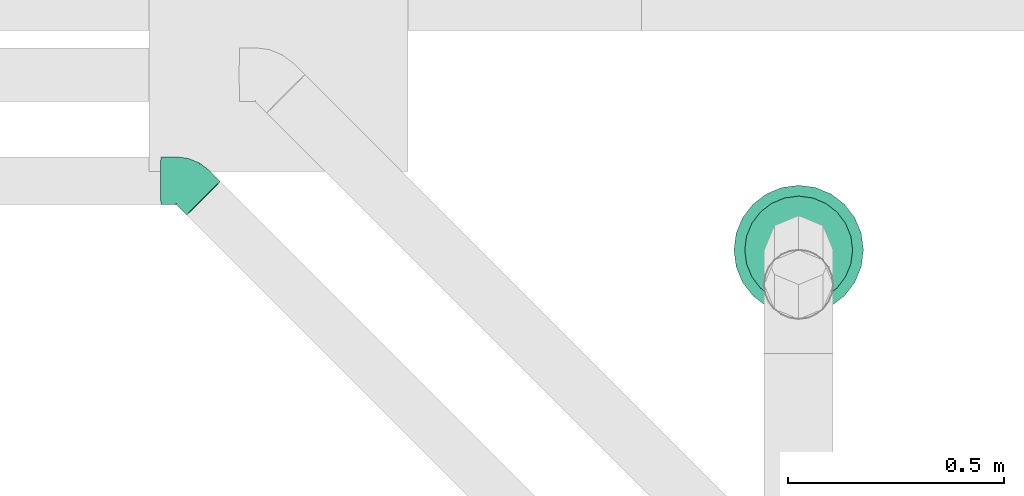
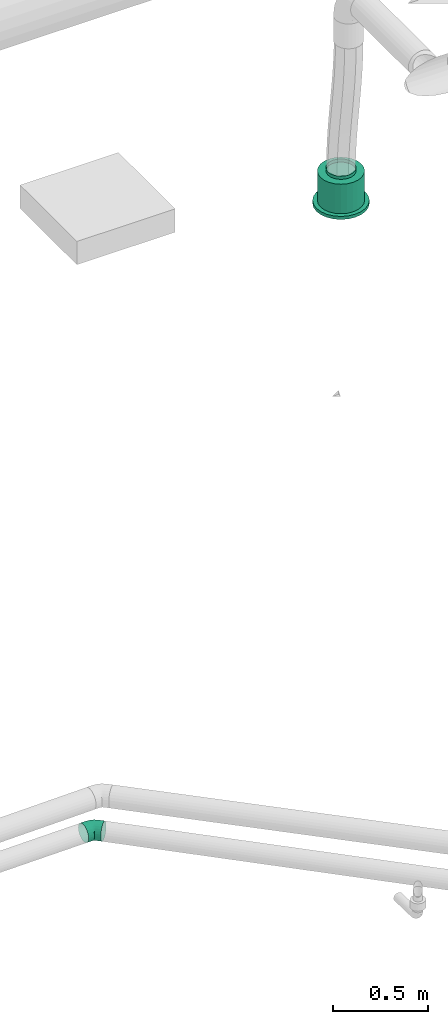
# One storey, part 171 of 374: 1 flow fitting, 1 flow terminal.
"""IFC2X3 building model written with IfcOpenShell, lengths in metres."""

import ifcopenshell
import ifcopenshell.guid

model = None  # the IFC model being written
_history = None  # IfcOwnerHistory: only IFC2X3 demands one
_inside = {}  # id of a spatial element -> (the spatial element, [elements in it])
_under = {}  # id of a project, library or spatial element -> (it, [spatial elements below it])
_declared = {}  # id of a project -> (the project, [libraries it declares])
_typed = {}  # id of a type object -> (the type object, [elements of that type])
_made_of = {}  # id of a material, layer set ... -> (it, [elements and type objects made of it])


def new_model(schema):
    """Start an empty IFC model of exactly this schema.

    Asked for "IFC4X3", IfcOpenShell would pick the latest addendum, in which some entities
    have other attributes; the version numbers below select the first issue.
    IFC2X3 requires an IfcOwnerHistory on every rooted entity: one is made here for all.
    """
    global model, _history
    if schema == "IFC4X3":
        model = ifcopenshell.file(schema_version=(4, 3, 0, 0))
    else:
        model = ifcopenshell.file(schema=schema)
    _inside.clear()
    _under.clear()
    _declared.clear()
    _typed.clear()
    _made_of.clear()
    _history = None
    if model.schema == "IFC2X3":
        org = make("IfcOrganization", Name="unknown")
        user = make(
            "IfcPersonAndOrganization",
            ThePerson=make("IfcPerson", FamilyName="unknown"),
            TheOrganization=org,
        )
        app = make(
            "IfcApplication",
            ApplicationDeveloper=org,
            Version="unknown",
            ApplicationFullName="unknown",
            ApplicationIdentifier="unknown",
        )
        _history = make(
            "IfcOwnerHistory",
            OwningUser=user,
            OwningApplication=app,
            ChangeAction="ADDED",
            CreationDate=0,
        )
    return model


def make(cls, **values):
    """One entity of the class cls with the attributes given. An attribute that is None is left unset."""
    return model.create_entity(
        cls, **{name: value for name, value in values.items() if value is not None}
    )


def rooted(cls, **values):
    """An entity with a GlobalId (a new one), such as an element, a storey or a relation."""
    return make(cls, GlobalId=ifcopenshell.guid.new(), OwnerHistory=_history, **values)


def si_unit(unit_type, name, prefix=None):
    """IfcSIUnit, for example si_unit("LENGTHUNIT", "METRE", prefix="MILLI")."""
    return make("IfcSIUnit", UnitType=unit_type, Prefix=prefix, Name=name)


def assignment(units):
    """IfcUnitAssignment: the units of a project."""
    return None if units is None else make("IfcUnitAssignment", Units=units)


def point(xyz):
    """IfcCartesianPoint."""
    return None if xyz is None else make("IfcCartesianPoint", Coordinates=xyz)


def direction(xyz):
    """IfcDirection."""
    return None if xyz is None else make("IfcDirection", DirectionRatios=xyz)


def frame(location, z_axis=None, x_axis=None):
    """IfcAxis2Placement3D, a coordinate frame: its origin and axes. An axis left out is left unset."""
    return make(
        "IfcAxis2Placement3D",
        Location=point(location),
        Axis=direction(z_axis),
        RefDirection=direction(x_axis),
    )


def origin():
    """The frame at (0, 0, 0) with its axes left unset."""
    return frame((0.0, 0.0, 0.0))


def place(relative_to, where):
    """IfcLocalPlacement: puts the frame where relative to a parent placement (None: the world)."""
    return make(
        "IfcLocalPlacement", PlacementRelTo=relative_to, RelativePlacement=where
    )


def context(
    kind, dimensions, precision=None, world=None, true_north=None, identifier=None
):
    """IfcGeometricRepresentationContext, for example the 3D "Model" context."""
    return make(
        "IfcGeometricRepresentationContext",
        ContextIdentifier=identifier,
        ContextType=kind,
        CoordinateSpaceDimension=dimensions,
        Precision=precision,
        WorldCoordinateSystem=world,
        TrueNorth=true_north,
    )


def subcontext(parent, identifier, kind, view, scale=None):
    """IfcGeometricRepresentationSubContext, for example "Body" below "Model"."""
    return make(
        "IfcGeometricRepresentationSubContext",
        ContextIdentifier=identifier,
        ContextType=kind,
        ParentContext=parent,
        TargetScale=scale,
        TargetView=view,
    )


def project(units=None, contexts=None):
    """IfcProject with its units and contexts."""
    return rooted(
        "IfcProject",
        Name="project",
        RepresentationContexts=contexts,
        UnitsInContext=assignment(units),
    )


def spatial(cls, under=None, at=None, **own):
    """A site, building, storey or space (cls), placed at a placement, below another one or the project."""
    s = rooted(cls, ObjectPlacement=at, **own)
    if under is not None:
        _under.setdefault(under.id(), (under, []))[1].append(s)
    return s


def faces_of(points, faces, orient=None, outer=None):
    """IfcFace entities. A face is a list of loops; a loop is a list of indices into points, from 0.

    orient and outer hold one flag for each loop. By default every Orientation is true, the
    first loop of a face is its IfcFaceOuterBound and the others are IfcFaceBound.
    """
    made = []
    for i, loops in enumerate(faces):
        bounds = []
        for j, loop in enumerate(loops):
            is_outer = j == 0 if outer is None else outer[i][j]
            bounds.append(
                make(
                    "IfcFaceOuterBound" if is_outer else "IfcFaceBound",
                    Bound=make("IfcPolyLoop", Polygon=[points[k] for k in loop]),
                    Orientation=True if orient is None else orient[i][j],
                )
            )
        made.append(make("IfcFace", Bounds=bounds))
    return made


def open_shell(faces, orient=None, outer=None):
    """The faces of one IfcOpenShell. surface_model builds it on its shared points."""
    return ("IfcOpenShell", faces, orient, outer)


def surface_model(cls, points, shells):
    """IfcFaceBasedSurfaceModel or IfcShellBasedSurfaceModel (cls): surfaces that need not close."""
    shared = [point(p) for p in points]
    made = [make(c, CfsFaces=faces_of(shared, fs, o, b)) for c, fs, o, b in shells]
    if cls == "IfcFaceBasedSurfaceModel":
        return make(cls, FbsmFaces=made)
    return make(cls, SbsmBoundary=made)


def shape(context_of_items, identifier, shape_type, items):
    """IfcShapeRepresentation: the items that make up one representation, for example the "Body"."""
    return make(
        "IfcShapeRepresentation",
        ContextOfItems=context_of_items,
        RepresentationIdentifier=identifier,
        RepresentationType=shape_type,
        Items=items,
    )


def source(mapping_origin, context_of_items, identifier, shape_type, items):
    """IfcRepresentationMap: a shape defined once, which mapped items show again and again."""
    return make(
        "IfcRepresentationMap",
        MappingOrigin=mapping_origin,
        MappedRepresentation=shape(context_of_items, identifier, shape_type, items),
    )


def transform(
    local_origin,
    x_axis=None,
    y_axis=None,
    z_axis=None,
    scale=None,
    scale2=None,
    scale3=None,
    uniform=True,
):
    """IfcCartesianTransformationOperator3D, or its non-uniform kind. x_axis, y_axis, z_axis: its Axis1, 2, 3."""
    if uniform:
        return make(
            "IfcCartesianTransformationOperator3D",
            Axis1=direction(x_axis),
            Axis2=direction(y_axis),
            LocalOrigin=point(local_origin),
            Scale=scale,
            Axis3=direction(z_axis),
        )
    return make(
        "IfcCartesianTransformationOperator3DnonUniform",
        Axis1=direction(x_axis),
        Axis2=direction(y_axis),
        LocalOrigin=point(local_origin),
        Scale=scale,
        Axis3=direction(z_axis),
        Scale2=scale2,
        Scale3=scale3,
    )


def mapped(mapping_source, mapping_target):
    """IfcMappedItem: shows the shape of a source again, moved by a transform."""
    return make(
        "IfcMappedItem", MappingSource=mapping_source, MappingTarget=mapping_target
    )


def made_of(thing, what):
    """Note that an element or type object is made of a material, layer set ...; save() writes the relation."""
    if what is not None:
        _made_of.setdefault(what.id(), (what, []))[1].append(thing)
    return thing


def element(
    cls,
    number,
    at=None,
    inside=None,
    cuts=None,
    type_object=None,
    material=None,
    context=None,
    identifier="Body",
    shape_type=None,
    held_by="IfcProductDefinitionShape",
    body=None,
    shapes=None,
    **own,
):
    """One element of the class cls, such as IfcWall. Its Tag is "e" and its number.

    at: its placement. inside: the storey or other place that contains it. cuts: it is an
    opening in that element (IfcRelVoidsElement). A single representation is given by context,
    identifier, shape_type and body (its items); several are given by shapes. held_by: the class
    of the entity that holds the representations. save() writes the other relations.
    """
    e = rooted(cls, Tag="e%d" % number, ObjectPlacement=at, **own)
    if body is not None:
        shapes = [shape(context, identifier, shape_type, body)]
    if shapes is not None:
        e.Representation = make(held_by, Representations=shapes)
    if inside is not None:
        _inside.setdefault(inside.id(), (inside, []))[1].append(e)
    if cuts is not None:
        rooted(
            "IfcRelVoidsElement", RelatingBuildingElement=cuts, RelatedOpeningElement=e
        )
    if type_object is not None:
        _typed.setdefault(type_object.id(), (type_object, []))[1].append(e)
    return made_of(e, material)


def aggregate(whole, parts):
    """IfcRelAggregates: a whole, such as a stair, and the parts it consists of."""
    return rooted("IfcRelAggregates", RelatingObject=whole, RelatedObjects=parts)


def save(model, path):
    """Write the relations noted so far, then the file.

    IfcRelAggregates (storeys below a building ...), IfcRelContainedInSpatialStructure (elements
    in a storey), IfcRelDefinesByType, IfcRelAssociatesMaterial and IfcRelDeclares: one each for
    every whole, place, type object, material and project.
    """
    for whole, parts in _under.values():
        aggregate(whole, parts)
    for where, things in _inside.values():
        rooted(
            "IfcRelContainedInSpatialStructure",
            RelatedElements=things,
            RelatingStructure=where,
        )
    for kind, things in _typed.values():
        rooted("IfcRelDefinesByType", RelatedObjects=things, RelatingType=kind)
    for what, things in _made_of.values():
        rooted("IfcRelAssociatesMaterial", RelatedObjects=things, RelatingMaterial=what)
    for by, libraries in _declared.values():
        rooted("IfcRelDeclares", RelatingContext=by, RelatedDefinitions=libraries)
    model.write(path)


model = new_model("IFC2X3")

# Units and contexts
model_context = context("Model", 3, precision=1e-05, world=origin(), true_north=direction((-0.4480736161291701, 0.8939966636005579)))
body_context = subcontext(model_context, "Body", "Model", "MODEL_VIEW")
ifc_project = project(units=[si_unit("LENGTHUNIT", "METRE"), si_unit("AREAUNIT", "SQUARE_METRE"), si_unit("VOLUMEUNIT", "CUBIC_METRE"), si_unit("PLANEANGLEUNIT", "RADIAN"), si_unit("THERMODYNAMICTEMPERATUREUNIT", "KELVIN"), si_unit("MASSUNIT", "GRAM", prefix="KILO"), si_unit("TIMEUNIT", "SECOND")], contexts=[model_context])

# Site, building, storey
site_placement = place(None, origin())
site = spatial("IfcSite", under=ifc_project, at=site_placement, Name="Site 1", CompositionType="ELEMENT")
building_placement = place(site_placement, origin())
building = spatial("IfcBuilding", under=site, at=building_placement, Name="Undefined", CompositionType="ELEMENT")
storey_placement = place(building_placement, origin())
storey = spatial("IfcBuildingStorey", under=building, at=storey_placement, Name="Rez de chauss\x8ee", CompositionType="ELEMENT", Elevation=0.0)

# Flow terminal
shared_shape_1 = source(origin(), body_context, "Body", "SurfaceModel", [
    surface_model("IfcFaceBasedSurfaceModel", [(0.0, 0.0, 0.0), (0.03915785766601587, 0.0, 0.0), (0.03915785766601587, 0.020000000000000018, 0.0), (3.552713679e-15, 0.020000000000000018, 0.0), (0.07698144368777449, 0.0, -0.010134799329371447), (0.07698144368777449, 0.020000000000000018, -0.010134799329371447), (0.11089314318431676, 0.0, -0.02971372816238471), (0.11089314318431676, 0.020000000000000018, -0.02971372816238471), (0.13858192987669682, 0.0, -0.05740251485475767), (0.13858192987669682, 0.020000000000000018, -0.05740251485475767), (0.15816085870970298, 0.0, -0.09131421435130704), (0.15816085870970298, 0.020000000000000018, -0.09131421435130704), (0.16829565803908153, 0.0, -0.12913780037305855), (0.16829565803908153, 0.020000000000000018, -0.12913780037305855), (0.16829565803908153, 0.0, -0.16829565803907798), (0.16829565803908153, 0.020000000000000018, -0.16829565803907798), (0.15816085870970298, 0.0, -0.20611924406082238), (0.15816085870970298, 0.020000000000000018, -0.20611924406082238), (0.13858192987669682, 0.0, -0.24003094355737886), (0.13858192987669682, 0.020000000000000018, -0.24003094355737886), (0.11089314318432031, 0.0, -0.2677197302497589), (0.11089314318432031, 0.020000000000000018, -0.2677197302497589), (0.07698144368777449, 0.0, -0.2872986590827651), (0.07698144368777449, 0.020000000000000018, -0.2872986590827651), (0.039157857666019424, 0.0, -0.29743345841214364), (0.039157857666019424, 0.020000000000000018, -0.29743345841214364), (3.552713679e-15, 0.0, -0.29743345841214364), (3.552713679e-15, 0.020000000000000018, -0.29743345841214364), (-0.03782358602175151, 0.0, -0.2872986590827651), (-0.03782358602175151, 0.020000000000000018, -0.2872986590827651), (-0.07173528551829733, 0.0, -0.2677197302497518), (-0.07173528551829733, 0.020000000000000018, -0.2677197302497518), (-0.0994240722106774, 0.0, -0.24003094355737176), (-0.0994240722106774, 0.020000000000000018, -0.24003094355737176), (-0.11900300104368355, 0.0, -0.2061192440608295), (-0.11900300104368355, 0.020000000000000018, -0.2061192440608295), (-0.1291378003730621, 0.0, -0.16829565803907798), (-0.1291378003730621, 0.020000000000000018, -0.16829565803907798), (-0.1291378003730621, 0.0, -0.12913780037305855), (-0.1291378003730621, 0.020000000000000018, -0.12913780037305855), (-0.11900300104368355, 0.0, -0.09131421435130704), (-0.11900300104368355, 0.020000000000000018, -0.09131421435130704), (-0.0994240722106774, 0.0, -0.05740251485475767), (-0.0994240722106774, 0.020000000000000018, -0.05740251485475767), (-0.07173528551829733, 0.0, -0.029713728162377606), (-0.07173528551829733, 0.020000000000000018, -0.029713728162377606), (-0.03782358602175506, 0.0, -0.010134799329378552), (-0.03782358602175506, 0.020000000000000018, -0.010134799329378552), (0.019578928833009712, 0.0, -0.14871672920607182), (0.019578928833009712, 0.020000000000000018, -0.14871672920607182), (0.003263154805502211, 0.020000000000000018, -0.02478612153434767), (0.035894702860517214, 0.020000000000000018, -0.02478612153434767), (0.035894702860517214, 0.20999999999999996, -0.02478612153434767), (0.003263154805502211, 0.20999999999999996, -0.02478612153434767), (0.06741435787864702, 0.020000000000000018, -0.033231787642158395), (0.06741435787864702, 0.20999999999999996, -0.033231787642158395), (0.0956741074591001, 0.020000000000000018, -0.04954756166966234), (0.0956741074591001, 0.20999999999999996, -0.04954756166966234), (0.11874809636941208, 0.020000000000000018, -0.07262155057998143), (0.11874809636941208, 0.20999999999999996, -0.07262155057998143), (0.13506387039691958, 0.020000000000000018, -0.10088130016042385), (0.13506387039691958, 0.20999999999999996, -0.10088130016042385), (0.1435095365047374, 0.020000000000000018, -0.13240095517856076), (0.1435095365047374, 0.20999999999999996, -0.13240095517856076), (0.1435095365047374, 0.020000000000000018, -0.16503250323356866), (0.1435095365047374, 0.20999999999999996, -0.16503250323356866), (0.13506387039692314, 0.020000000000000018, -0.19655215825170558), (0.13506387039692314, 0.20999999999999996, -0.19655215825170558), (0.11874809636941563, 0.020000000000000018, -0.2248119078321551), (0.11874809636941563, 0.20999999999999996, -0.2248119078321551), (0.09567410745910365, 0.020000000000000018, -0.24788589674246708), (0.09567410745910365, 0.20999999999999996, -0.24788589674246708), (0.06741435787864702, 0.020000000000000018, -0.26420167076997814), (0.06741435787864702, 0.20999999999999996, -0.26420167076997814), (0.035894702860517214, 0.020000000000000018, -0.27264733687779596), (0.035894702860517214, 0.20999999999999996, -0.27264733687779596), (0.0032631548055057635, 0.020000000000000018, -0.27264733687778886), (0.0032631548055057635, 0.20999999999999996, -0.27264733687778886), (-0.028256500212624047, 0.020000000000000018, -0.26420167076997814), (-0.028256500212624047, 0.20999999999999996, -0.26420167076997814), (-0.05651624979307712, 0.020000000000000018, -0.2478858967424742), (-0.05651624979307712, 0.20999999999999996, -0.2478858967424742), (-0.07959023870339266, 0.020000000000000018, -0.2248119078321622), (-0.07959023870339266, 0.20999999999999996, -0.2248119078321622), (-0.09590601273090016, 0.020000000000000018, -0.19655215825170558), (-0.09590601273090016, 0.20999999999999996, -0.19655215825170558), (-0.10435167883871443, 0.020000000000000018, -0.16503250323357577), (-0.10435167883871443, 0.20999999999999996, -0.16503250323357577), (-0.10435167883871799, 0.020000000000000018, -0.13240095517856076), (-0.10435167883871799, 0.20999999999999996, -0.13240095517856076), (-0.09590601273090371, 0.020000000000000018, -0.10088130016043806), (-0.09590601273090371, 0.20999999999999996, -0.10088130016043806), (-0.07959023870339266, 0.020000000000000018, -0.07262155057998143), (-0.07959023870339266, 0.20999999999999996, -0.07262155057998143), (-0.056516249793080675, 0.020000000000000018, -0.04954756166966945), (-0.056516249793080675, 0.20999999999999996, -0.04954756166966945), (-0.028256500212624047, 0.020000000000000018, -0.033231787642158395), (-0.028256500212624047, 0.20999999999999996, -0.033231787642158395), (0.019578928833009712, 0.20999999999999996, -0.14871672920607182), (0.009136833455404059, 0.20999999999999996, -0.06940114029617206), (0.030021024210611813, 0.20999999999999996, -0.06940114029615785), (0.030021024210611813, 0.22999999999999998, -0.06940114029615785), (0.009136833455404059, 0.22999999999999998, -0.06940114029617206), (0.05019360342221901, 0.20999999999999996, -0.07480636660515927), (0.05019360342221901, 0.22999999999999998, -0.07480636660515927), (0.06827984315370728, 0.20999999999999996, -0.08524846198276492), (0.06827984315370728, 0.22999999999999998, -0.08524846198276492), (0.0830471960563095, 0.20999999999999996, -0.10001581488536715), (0.0830471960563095, 0.22999999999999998, -0.10001581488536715), (0.0934892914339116, 0.20999999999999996, -0.11810205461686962), (0.0934892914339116, 0.22999999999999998, -0.11810205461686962), (0.09889451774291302, 0.20999999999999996, -0.13827463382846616), (0.09889451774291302, 0.22999999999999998, -0.13827463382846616), (0.09889451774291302, 0.20999999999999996, -0.15915882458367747), (0.09889451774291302, 0.22999999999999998, -0.15915882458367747), (0.09348929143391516, 0.20999999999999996, -0.179331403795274), (0.09348929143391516, 0.22999999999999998, -0.179331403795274), (0.0830471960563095, 0.20999999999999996, -0.19741764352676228), (0.0830471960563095, 0.22999999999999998, -0.19741764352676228), (0.06827984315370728, 0.20999999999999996, -0.2121849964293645), (0.06827984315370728, 0.22999999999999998, -0.2121849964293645), (0.05019360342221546, 0.20999999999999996, -0.22262709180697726), (0.05019360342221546, 0.22999999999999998, -0.22262709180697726), (0.030021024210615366, 0.20999999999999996, -0.22803231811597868), (0.030021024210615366, 0.22999999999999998, -0.22803231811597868), (0.009136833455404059, 0.20999999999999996, -0.22803231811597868), (0.009136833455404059, 0.22999999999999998, -0.22803231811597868), (-0.011035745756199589, 0.20999999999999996, -0.22262709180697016), (-0.011035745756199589, 0.22999999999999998, -0.22262709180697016), (-0.0291219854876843, 0.20999999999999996, -0.2121849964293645), (-0.0291219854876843, 0.22999999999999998, -0.2121849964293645), (-0.043889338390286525, 0.20999999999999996, -0.19741764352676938), (-0.043889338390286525, 0.22999999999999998, -0.19741764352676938), (-0.05433143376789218, 0.20999999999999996, -0.17933140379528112), (-0.05433143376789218, 0.22999999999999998, -0.17933140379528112), (-0.05973666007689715, 0.20999999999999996, -0.15915882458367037), (-0.05973666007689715, 0.22999999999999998, -0.15915882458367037), (-0.0597366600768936, 0.20999999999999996, -0.13827463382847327), (-0.0597366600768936, 0.22999999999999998, -0.13827463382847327), (-0.05433143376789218, 0.20999999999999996, -0.11810205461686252), (-0.05433143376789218, 0.22999999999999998, -0.11810205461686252), (-0.043889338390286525, 0.20999999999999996, -0.10001581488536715), (-0.043889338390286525, 0.22999999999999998, -0.10001581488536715), (-0.02912198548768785, 0.20999999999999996, -0.08524846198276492), (-0.02912198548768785, 0.22999999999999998, -0.08524846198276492), (-0.011035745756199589, 0.20999999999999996, -0.07480636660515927), (-0.011035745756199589, 0.22999999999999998, -0.07480636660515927)], [open_shell([[[0, 1, 2, 3]], [[1, 4, 5, 2]], [[4, 6, 7, 5]], [[6, 8, 9, 7]], [[8, 10, 11, 9]], [[10, 12, 13, 11]], [[12, 14, 15, 13]], [[14, 16, 17, 15]], [[16, 18, 19, 17]], [[18, 20, 21, 19]], [[20, 22, 23, 21]], [[22, 24, 25, 23]], [[24, 26, 27, 25]], [[26, 28, 29, 27]], [[28, 30, 31, 29]], [[30, 32, 33, 31]], [[32, 34, 35, 33]], [[34, 36, 37, 35]], [[36, 38, 39, 37]], [[38, 40, 41, 39]], [[40, 42, 43, 41]], [[42, 44, 45, 43]], [[44, 46, 47, 45]], [[46, 0, 3, 47]], [[48, 1, 0]], [[48, 4, 1]], [[48, 6, 4]], [[48, 8, 6]], [[48, 10, 8]], [[48, 12, 10]], [[48, 14, 12]], [[48, 16, 14]], [[48, 18, 16]], [[48, 20, 18]], [[48, 22, 20]], [[48, 24, 22]], [[48, 26, 24]], [[48, 28, 26]], [[48, 30, 28]], [[48, 32, 30]], [[48, 34, 32]], [[48, 36, 34]], [[48, 38, 36]], [[48, 40, 38]], [[48, 42, 40]], [[48, 44, 42]], [[48, 46, 44]], [[48, 0, 46]], [[49, 47, 3]], [[49, 45, 47]], [[49, 43, 45]], [[49, 41, 43]], [[49, 39, 41]], [[49, 37, 39]], [[49, 35, 37]], [[49, 33, 35]], [[49, 31, 33]], [[49, 29, 31]], [[49, 27, 29]], [[49, 25, 27]], [[49, 23, 25]], [[49, 21, 23]], [[49, 19, 21]], [[49, 17, 19]], [[49, 15, 17]], [[49, 13, 15]], [[49, 11, 13]], [[49, 9, 11]], [[49, 7, 9]], [[49, 5, 7]], [[49, 2, 5]], [[49, 3, 2]], [[50, 51, 52, 53]], [[51, 54, 55, 52]], [[54, 56, 57, 55]], [[56, 58, 59, 57]], [[58, 60, 61, 59]], [[60, 62, 63, 61]], [[62, 64, 65, 63]], [[64, 66, 67, 65]], [[66, 68, 69, 67]], [[68, 70, 71, 69]], [[70, 72, 73, 71]], [[72, 74, 75, 73]], [[74, 76, 77, 75]], [[76, 78, 79, 77]], [[78, 80, 81, 79]], [[80, 82, 83, 81]], [[82, 84, 85, 83]], [[84, 86, 87, 85]], [[86, 88, 89, 87]], [[88, 90, 91, 89]], [[90, 92, 93, 91]], [[92, 94, 95, 93]], [[94, 96, 97, 95]], [[96, 50, 53, 97]], [[49, 51, 50]], [[49, 54, 51]], [[49, 56, 54]], [[49, 58, 56]], [[49, 60, 58]], [[49, 62, 60]], [[49, 64, 62]], [[49, 66, 64]], [[49, 68, 66]], [[49, 70, 68]], [[49, 72, 70]], [[49, 74, 72]], [[49, 76, 74]], [[49, 78, 76]], [[49, 80, 78]], [[49, 82, 80]], [[49, 84, 82]], [[49, 86, 84]], [[49, 88, 86]], [[49, 90, 88]], [[49, 92, 90]], [[49, 94, 92]], [[49, 96, 94]], [[49, 50, 96]], [[98, 97, 53]], [[98, 95, 97]], [[98, 93, 95]], [[98, 91, 93]], [[98, 89, 91]], [[98, 87, 89]], [[98, 85, 87]], [[98, 83, 85]], [[98, 81, 83]], [[98, 79, 81]], [[98, 77, 79]], [[98, 75, 77]], [[98, 73, 75]], [[98, 71, 73]], [[98, 69, 71]], [[98, 67, 69]], [[98, 65, 67]], [[98, 63, 65]], [[98, 61, 63]], [[98, 59, 61]], [[98, 57, 59]], [[98, 55, 57]], [[98, 52, 55]], [[98, 53, 52]], [[99, 100, 101, 102]], [[100, 103, 104, 101]], [[103, 105, 106, 104]], [[105, 107, 108, 106]], [[107, 109, 110, 108]], [[109, 111, 112, 110]], [[111, 113, 114, 112]], [[113, 115, 116, 114]], [[115, 117, 118, 116]], [[117, 119, 120, 118]], [[119, 121, 122, 120]], [[121, 123, 124, 122]], [[123, 125, 126, 124]], [[125, 127, 128, 126]], [[127, 129, 130, 128]], [[129, 131, 132, 130]], [[131, 133, 134, 132]], [[133, 135, 136, 134]], [[135, 137, 138, 136]], [[137, 139, 140, 138]], [[139, 141, 142, 140]], [[141, 143, 144, 142]], [[143, 145, 146, 144]], [[145, 99, 102, 146]]])]),
])
flow_terminal_placement = place(storey_placement, origin())
element("IfcFlowTerminal", 1, at=flow_terminal_placement, inside=storey, Name="Air diffuseur - bouche", ObjectType="Air diffuseur - bouche", context=body_context, shape_type="MappedRepresentation", body=[
    mapped(shared_shape_1, transform((56.2892401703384, 16.804999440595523, 2.38), x_axis=(0.9914448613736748, 0.13052619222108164, 0.0), y_axis=(0.0, 0.0, 1.0), z_axis=(0.13052619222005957, -0.9914448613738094, 0.0))),
])

# Flow fitting
shared_shape_2 = source(origin(), body_context, "Body", "SurfaceModel", [
    surface_model("IfcFaceBasedSurfaceModel", [(0.0, 0.014357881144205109, -3.552713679e-15), (0.0, 0.0, 0.0), (0.03509999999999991, 1.776356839e-15, -1.776356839e-15), (0.03509999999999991, 0.014357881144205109, 0.0), (0.0, -0.01386864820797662, -0.0037160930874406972), (0.035100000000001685, -0.01386864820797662, -0.003716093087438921), (0.0, -0.026302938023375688, -0.010895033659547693), (0.03509999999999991, -0.026302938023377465, -0.010895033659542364), (0.0, -0.03645549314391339, -0.021047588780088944), (0.035100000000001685, -0.03645549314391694, -0.021047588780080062), (0.0, -0.04363443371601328, -0.033481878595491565), (0.035100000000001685, -0.043634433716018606, -0.03348187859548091), (0.0, -0.04735052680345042, -0.04735052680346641), (0.03510000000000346, -0.04735052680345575, -0.04735052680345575), (0.0, -0.04735052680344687, -0.06170840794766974), (0.035100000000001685, -0.047350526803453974, -0.061708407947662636), (0.0, -0.04363443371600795, -0.07557705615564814), (0.035100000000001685, -0.04363443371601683, -0.07557705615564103), (0.0, -0.03645549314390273, -0.08801134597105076), (0.035100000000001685, -0.03645549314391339, -0.08801134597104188), (0.0, -0.026302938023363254, -0.0981639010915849), (0.03510000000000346, -0.026302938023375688, -0.09816390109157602), (0.0, -0.013868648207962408, -0.1053428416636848), (0.03510000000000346, -0.013868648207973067, -0.10534284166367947), (0.0, 1.5987211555e-14, -0.10905893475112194), (0.03510000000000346, 5.329070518e-15, -0.10905893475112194), (0.0, 0.014357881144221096, -0.10905893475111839), (0.035100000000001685, 0.014357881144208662, -0.10905893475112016), (0.0, 0.028226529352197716, -0.10534284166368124), (0.03510000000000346, 0.02822652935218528, -0.10534284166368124), (0.0, 0.040660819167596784, -0.0981639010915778), (0.03510000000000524, 0.040660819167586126, -0.09816390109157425), (0.0, 0.05081337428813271, -0.08801134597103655), (0.035100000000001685, 0.050813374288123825, -0.08801134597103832), (0.0, 0.05799231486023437, -0.07557705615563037), (0.035100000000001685, 0.05799231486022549, -0.07557705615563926), (0.0, 0.06170840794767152, -0.06170840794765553), (0.035100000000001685, 0.06170840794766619, -0.06170840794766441), (0.0, 0.061708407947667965, -0.0473505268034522), (0.035100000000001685, 0.061708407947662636, -0.0473505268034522), (0.0, 0.05799231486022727, -0.033481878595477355), (0.03510000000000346, 0.057992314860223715, -0.033481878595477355), (0.0, 0.050813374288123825, -0.021047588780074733), (0.035100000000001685, 0.05081337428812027, -0.021047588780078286), (0.0, 0.04066081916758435, -0.010895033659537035), (0.035100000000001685, 0.040660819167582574, -0.010895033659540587), (0.0, 0.028226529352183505, -0.0037160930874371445), (0.035100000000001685, 0.028226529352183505, -0.003716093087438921), (0.06308504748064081, -0.04369774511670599, -0.06218930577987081), (0.06357009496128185, -0.04363443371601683, -0.04783975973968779), (0.08916296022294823, -0.03298833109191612, -0.0635992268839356), (0.09010000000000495, -0.032739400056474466, -0.04927411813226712), (0.11155657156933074, -0.015952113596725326, -0.06584208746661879), (0.11288174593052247, -0.015407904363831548, -0.051555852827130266), (0.061662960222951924, -0.040167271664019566, -0.07603351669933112), (0.08641569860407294, -0.030002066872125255, -0.07737179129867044), (0.10767135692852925, -0.013831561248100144, -0.07950067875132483), (0.05940074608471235, -0.03328360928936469, -0.08842893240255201), (0.08204543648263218, -0.023984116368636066, -0.0896532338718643), (0.10149087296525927, -0.009190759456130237, -0.09160081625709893), (0.05645257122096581, -0.02351586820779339, -0.09853082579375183), (0.07635000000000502, -0.015344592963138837, -0.09960659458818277), (0.09343630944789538, -0.0023459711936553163, -0.10131789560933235), (0.053019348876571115, -0.011529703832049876, -0.1056507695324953), (0.06971752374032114, -0.004672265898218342, -0.10655356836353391), (0.08405657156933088, 0.006236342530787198, -0.10798971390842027), (0.049335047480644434, 0.0018580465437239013, -0.10930355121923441), (0.06260000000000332, 0.007305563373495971, -0.1100207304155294), (0.07399087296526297, 0.015971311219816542, -0.11116159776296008), (0.0456507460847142, 0.015735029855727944, -0.1092402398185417), (0.05548247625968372, 0.01977262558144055, -0.10977179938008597), (0.0639251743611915, 0.0261955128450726, -0.11061738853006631), (0.042217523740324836, 0.029155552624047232, -0.10546514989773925), (0.04885000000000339, 0.03187931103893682, -0.10582373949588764), (0.05454543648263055, 0.03621218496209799, -0.10639417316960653), (0.03926934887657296, 0.04120502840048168, -0.09823554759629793), (0.043154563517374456, 0.04280056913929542, -0.09844560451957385), (0.046490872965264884, 0.045338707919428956, -0.09877975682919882), (0.03700713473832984, 0.05106230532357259, -0.08804411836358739), (0.03878430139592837, 0.05179213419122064, -0.08814020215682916), (0.04031038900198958, 0.052953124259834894, -0.08829304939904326), (0.03558504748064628, 0.058055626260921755, -0.07558539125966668), (0.03603703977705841, 0.0582412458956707, -0.07560982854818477), (0.03642517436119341, 0.05853652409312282, -0.07564870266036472), (0.035585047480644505, 0.0617717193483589, -0.047358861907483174), (0.036037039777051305, 0.0619573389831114, -0.04738329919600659), (0.03642517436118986, 0.06225261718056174, -0.04742217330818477), (0.037007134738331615, 0.05824124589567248, -0.03351465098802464), (0.03878430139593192, 0.05897107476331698, -0.03361073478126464), (0.04031038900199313, 0.06013206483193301, -0.03376358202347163), (0.039269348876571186, 0.05135758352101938, -0.02111923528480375), (0.04315456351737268, 0.05295312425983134, -0.021329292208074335), (0.046490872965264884, 0.05549126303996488, -0.021663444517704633), (0.04221752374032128, 0.041589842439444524, -0.01101734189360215), (0.04884999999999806, 0.044313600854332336, -0.011375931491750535), (0.054545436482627, 0.04864647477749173, -0.01194636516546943), (0.04565074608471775, 0.029603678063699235, -0.003897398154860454), (0.05548247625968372, 0.03364127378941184, -0.004428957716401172), (0.0639251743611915, 0.040064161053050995, -0.005274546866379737), (0.04933504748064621, 0.016215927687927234, -0.0002446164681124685), (0.06260000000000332, 0.021663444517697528, -0.000961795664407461), (0.07399087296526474, 0.030329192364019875, -0.002102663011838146), (0.05301934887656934, 0.0023389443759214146, -0.0003079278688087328), (0.06971752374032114, 0.009196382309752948, -0.0012107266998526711), (0.08405657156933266, 0.020104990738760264, -0.0026468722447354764), (0.05645257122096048, -0.011081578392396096, -0.004083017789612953), (0.0763499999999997, -0.002910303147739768, -0.0051587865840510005), (0.09343630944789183, 0.010088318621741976, -0.006870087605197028), (0.059400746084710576, -0.023131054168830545, -0.011312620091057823), (0.08204543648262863, -0.01383156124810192, -0.012536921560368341), (0.1014908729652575, 0.0009617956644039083, -0.01448450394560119), (0.0616629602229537, -0.032988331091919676, -0.021504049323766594), (0.0864156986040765, -0.022823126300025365, -0.022842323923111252), (0.10767135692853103, -0.006652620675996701, -0.024971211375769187), (0.06308504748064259, -0.03998165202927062, -0.033962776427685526), (0.08916296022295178, -0.02927223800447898, -0.035372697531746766), (0.1115565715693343, -0.012236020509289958, -0.03761555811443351), (0.1363760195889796, 0.008655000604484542, -0.06908167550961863), (0.13770119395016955, 0.00919920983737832, -0.05479544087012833), (0.13249080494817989, 0.0107755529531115, -0.08274026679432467), (0.12631032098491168, 0.01541635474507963, -0.09484040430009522), (0.11825575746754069, 0.02226114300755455, -0.10455748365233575), (0.1088760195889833, 0.03084345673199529, -0.11122930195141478), (0.09881032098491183, 0.04057842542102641, -0.11440118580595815), (0.08874462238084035, 0.05080262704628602, -0.11385697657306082), (0.07936488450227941, 0.06081929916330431, -0.10963376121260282), (0.07131032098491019, 0.0699458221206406, -0.10201934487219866), (0.06512983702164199, 0.07756023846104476, -0.09153263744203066), (0.06124462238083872, 0.08314363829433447, -0.07888829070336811), (0.059919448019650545, 0.08631552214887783, -0.0649479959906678), (0.06124462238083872, 0.08685973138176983, -0.05066176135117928), (0.06512983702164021, 0.08473917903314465, -0.03700317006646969), (0.07131032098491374, 0.08009837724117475, -0.024903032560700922), (0.07936488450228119, 0.07325358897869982, -0.015185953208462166), (0.0887446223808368, 0.06467127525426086, -0.008514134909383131), (0.09881032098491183, 0.05493630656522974, -0.005342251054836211), (0.10887601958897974, 0.04471210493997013, -0.0058864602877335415), (0.11825575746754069, 0.03469543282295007, -0.010109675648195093), (0.1263103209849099, 0.02556890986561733, -0.017724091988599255), (0.13249080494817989, 0.017954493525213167, -0.0282107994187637), (0.13637601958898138, 0.012371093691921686, -0.04085514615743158)], [open_shell([[[0, 1, 2, 3]], [[1, 4, 5, 2]], [[4, 6, 7, 5]], [[6, 8, 9, 7]], [[8, 10, 11, 9]], [[10, 12, 13, 11]], [[12, 14, 15, 13]], [[14, 16, 17, 15]], [[16, 18, 19, 17]], [[18, 20, 21, 19]], [[20, 22, 23, 21]], [[22, 24, 25, 23]], [[24, 26, 27, 25]], [[26, 28, 29, 27]], [[28, 30, 31, 29]], [[30, 32, 33, 31]], [[32, 34, 35, 33]], [[34, 36, 37, 35]], [[36, 38, 39, 37]], [[38, 40, 41, 39]], [[40, 42, 43, 41]], [[42, 44, 45, 43]], [[44, 46, 47, 45]], [[46, 0, 3, 47]], [[13, 15, 48, 49]], [[49, 48, 50, 51]], [[51, 50, 52, 53]], [[15, 17, 54, 48]], [[48, 54, 55, 50]], [[50, 55, 56, 52]], [[17, 19, 57, 54]], [[54, 57, 58, 55]], [[55, 58, 59, 56]], [[19, 21, 60, 57]], [[57, 60, 61, 58]], [[58, 61, 62, 59]], [[21, 23, 63, 60]], [[60, 63, 64, 61]], [[61, 64, 65, 62]], [[23, 25, 66, 63]], [[63, 66, 67, 64]], [[64, 67, 68, 65]], [[25, 27, 69, 66]], [[66, 69, 70, 67]], [[67, 70, 71, 68]], [[27, 29, 72, 69]], [[69, 72, 73, 70]], [[70, 73, 74, 71]], [[29, 31, 75, 72]], [[72, 75, 76, 73]], [[73, 76, 77, 74]], [[31, 33, 78, 75]], [[75, 78, 79, 76]], [[76, 79, 80, 77]], [[33, 35, 81, 78]], [[78, 81, 82, 79]], [[79, 82, 83, 80]], [[35, 37, 81]], [[81, 37, 82]], [[82, 37, 83]], [[37, 39, 84]], [[37, 84, 85]], [[37, 85, 86]], [[39, 41, 87, 84]], [[84, 87, 88, 85]], [[85, 88, 89, 86]], [[41, 43, 90, 87]], [[87, 90, 91, 88]], [[88, 91, 92, 89]], [[43, 45, 93, 90]], [[90, 93, 94, 91]], [[91, 94, 95, 92]], [[45, 47, 96, 93]], [[93, 96, 97, 94]], [[94, 97, 98, 95]], [[47, 3, 99, 96]], [[96, 99, 100, 97]], [[97, 100, 101, 98]], [[3, 2, 102, 99]], [[99, 102, 103, 100]], [[100, 103, 104, 101]], [[2, 5, 105, 102]], [[102, 105, 106, 103]], [[103, 106, 107, 104]], [[5, 7, 108, 105]], [[105, 108, 109, 106]], [[106, 109, 110, 107]], [[7, 9, 111, 108]], [[108, 111, 112, 109]], [[109, 112, 113, 110]], [[9, 11, 114, 111]], [[111, 114, 115, 112]], [[112, 115, 116, 113]], [[11, 13, 49, 114]], [[114, 49, 51, 115]], [[115, 51, 53, 116]], [[53, 52, 117, 118]], [[52, 56, 119, 117]], [[56, 59, 120, 119]], [[59, 62, 121, 120]], [[62, 65, 122, 121]], [[65, 68, 123, 122]], [[68, 71, 124, 123]], [[71, 74, 125, 124]], [[74, 77, 126, 125]], [[77, 80, 127, 126]], [[80, 83, 128, 127]], [[83, 37, 129, 128]], [[37, 86, 130, 129]], [[86, 89, 131, 130]], [[89, 92, 132, 131]], [[92, 95, 133, 132]], [[95, 98, 134, 133]], [[98, 101, 135, 134]], [[101, 104, 136, 135]], [[104, 107, 137, 136]], [[107, 110, 138, 137]], [[110, 113, 139, 138]], [[113, 116, 140, 139]], [[116, 53, 118, 140]]])]),
])
flow_fitting_placement = place(storey_placement, origin())
element("IfcFlowFitting", 2, at=flow_fitting_placement, inside=storey, Name="PE-HD coude 45°", ObjectType="PE-HD coude 45°", context=body_context, shape_type="MappedRepresentation", body=[
    mapped(shared_shape_2, transform((54.812264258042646, 17.130036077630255, -1.313804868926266), x_axis=(0.9998875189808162, 0.0, 0.014998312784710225), y_axis=(0.001865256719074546, -0.992236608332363, -0.1243504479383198), z_axis=(0.014881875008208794, 0.12436443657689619, -0.9921250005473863))),
])

save(model, "model.ifc")
